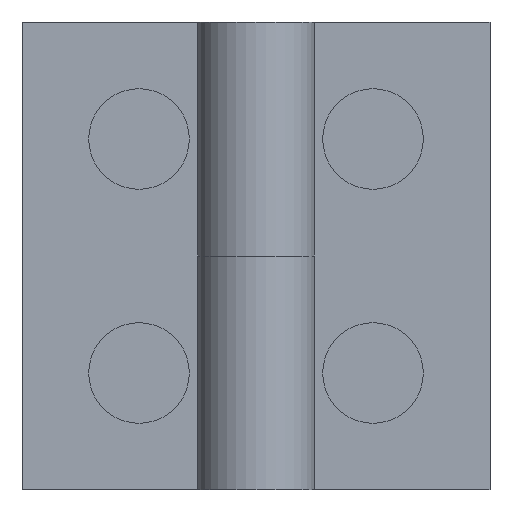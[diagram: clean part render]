
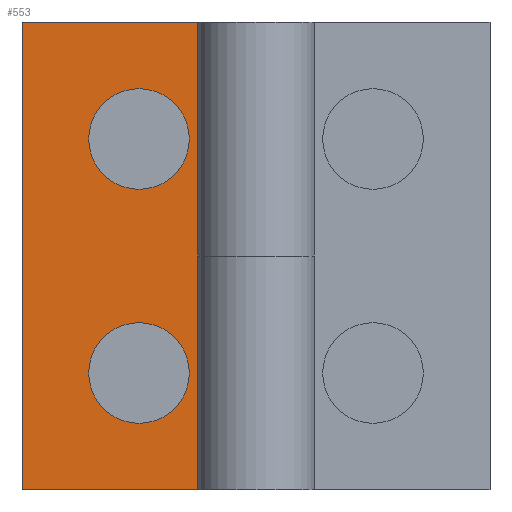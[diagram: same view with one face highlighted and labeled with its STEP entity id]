
A CAD part, front view. The second image highlights one B-rep face of the part: STEP entity #553.
In plain terms, the highlighted planar face has unit normal (0, -1, 0).
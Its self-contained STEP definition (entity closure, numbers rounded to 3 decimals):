
#133=CARTESIAN_POINT('',(-5.7,-3.,-10.));
#134=VERTEX_POINT('',#133);
#135=CARTESIAN_POINT('',(-10.,-3.,-10.));
#136=DIRECTION('',(0.0,1.0,0.0));
#137=DIRECTION('',(1.0,0.0,0.0));
#138=AXIS2_PLACEMENT_3D('',#135,#136,#137);
#139=CIRCLE('',#138,4.3);
#140=EDGE_CURVE('',#134,#134,#139,.T.);
#223=CARTESIAN_POINT('',(-5.7,-3.,10.));
#224=VERTEX_POINT('',#223);
#225=CARTESIAN_POINT('',(-10.,-3.,10.));
#226=DIRECTION('',(0.0,1.0,0.0));
#227=DIRECTION('',(1.0,0.0,0.0));
#228=AXIS2_PLACEMENT_3D('',#225,#226,#227);
#229=CIRCLE('',#228,4.3);
#230=EDGE_CURVE('',#224,#224,#229,.T.);
#294=CARTESIAN_POINT('',(-5.,-3.,20.));
#295=VERTEX_POINT('',#294);
#302=CARTESIAN_POINT('',(-5.,-3.,0.));
#303=VERTEX_POINT('',#302);
#304=CARTESIAN_POINT('',(-5.,-3.,0.));
#305=DIRECTION('',(0.0,0.0,1.0));
#306=VECTOR('',#305,20.);
#307=LINE('',#304,#306);
#308=EDGE_CURVE('',#303,#295,#307,.T.);
#340=CARTESIAN_POINT('',(-20.,-3.,20.));
#341=VERTEX_POINT('',#340);
#348=CARTESIAN_POINT('',(-5.,-3.,20.));
#349=DIRECTION('',(-1.0,0.0,0.0));
#350=VECTOR('',#349,15.);
#351=LINE('',#348,#350);
#352=EDGE_CURVE('',#295,#341,#351,.T.);
#504=CARTESIAN_POINT('',(-20.,-3.,-20.));
#505=VERTEX_POINT('',#504);
#512=CARTESIAN_POINT('',(-20.,-3.,20.));
#513=DIRECTION('',(0.0,0.0,-1.0));
#514=VECTOR('',#513,40.);
#515=LINE('',#512,#514);
#516=EDGE_CURVE('',#341,#505,#515,.T.);
#523=CARTESIAN_POINT('',(-20.,-3.,0.));
#524=DIRECTION('',(0.0,-1.0,0.0));
#525=DIRECTION('',(0.0,0.0,1.0));
#526=AXIS2_PLACEMENT_3D('',#523,#524,#525);
#527=PLANE('',#526);
#528=CARTESIAN_POINT('',(-5.,-3.,-20.));
#529=VERTEX_POINT('',#528);
#530=CARTESIAN_POINT('',(-20.,-3.,-20.));
#531=DIRECTION('',(1.0,0.0,0.0));
#532=VECTOR('',#531,15.);
#533=LINE('',#530,#532);
#534=EDGE_CURVE('',#505,#529,#533,.T.);
#535=ORIENTED_EDGE('',*,*,#534,.T.);
#536=CARTESIAN_POINT('',(-5.,-3.,0.));
#537=DIRECTION('',(0.0,0.0,-1.0));
#538=VECTOR('',#537,20.);
#539=LINE('',#536,#538);
#540=EDGE_CURVE('',#303,#529,#539,.T.);
#541=ORIENTED_EDGE('',*,*,#540,.F.);
#542=ORIENTED_EDGE('',*,*,#308,.T.);
#543=ORIENTED_EDGE('',*,*,#352,.T.);
#544=ORIENTED_EDGE('',*,*,#516,.T.);
#545=EDGE_LOOP('',(#535,#541,#542,#543,#544));
#546=FACE_OUTER_BOUND('',#545,.T.);
#547=ORIENTED_EDGE('',*,*,#140,.T.);
#548=EDGE_LOOP('',(#547));
#549=FACE_BOUND('',#548,.T.);
#550=ORIENTED_EDGE('',*,*,#230,.T.);
#551=EDGE_LOOP('',(#550));
#552=FACE_BOUND('',#551,.T.);
#553=ADVANCED_FACE('',(#546,#549,#552),#527,.T.);
